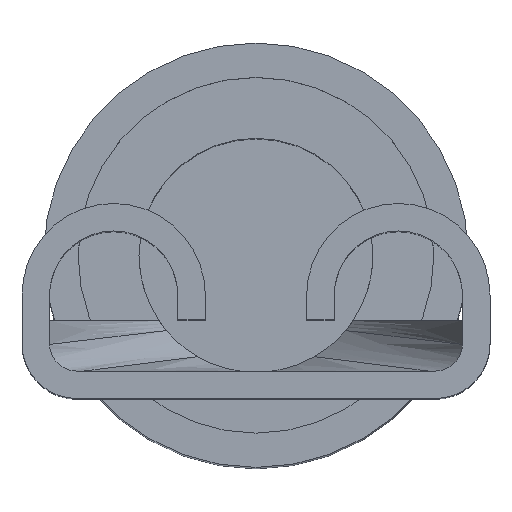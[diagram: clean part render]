
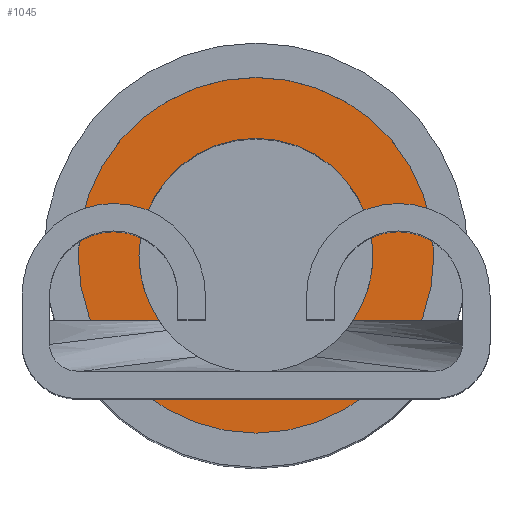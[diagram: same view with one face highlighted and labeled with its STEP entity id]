
A CAD part, top view. The second image highlights one B-rep face of the part: STEP entity #1045.
In plain terms, the highlighted planar face has unit normal (0, 0, 1).
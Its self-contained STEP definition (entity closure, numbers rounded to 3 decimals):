
#264=DIRECTION('',(1.,0.,0.));
#265=VECTOR('',#264,0.518);
#266=CARTESIAN_POINT('',(1.578,1.285,-11.811));
#267=LINE('',#266,#265);
#276=CARTESIAN_POINT('',(0.,2.352,-11.811));
#277=DIRECTION('',(0.,0.,1.));
#278=DIRECTION('',(0.,1.,0.));
#279=AXIS2_PLACEMENT_3D('',#276,#277,#278);
#281=CARTESIAN_POINT('',(0.,2.352,-11.811));
#282=DIRECTION('',(0.,0.,-1.));
#283=DIRECTION('',(0.,1.,0.));
#284=AXIS2_PLACEMENT_3D('',#281,#282,#283);
#286=CARTESIAN_POINT('',(0.,2.352,-11.811));
#287=DIRECTION('',(0.,0.,1.));
#288=DIRECTION('',(0.828,-0.56,0.));
#289=AXIS2_PLACEMENT_3D('',#286,#287,#288);
#291=CARTESIAN_POINT('',(0.,2.352,-11.811));
#292=DIRECTION('',(0.,0.,1.));
#293=DIRECTION('',(1.,0.,0.));
#294=AXIS2_PLACEMENT_3D('',#291,#292,#293);
#296=CARTESIAN_POINT('',(0.,2.352,-11.811));
#297=DIRECTION('',(0.,0.,1.));
#298=DIRECTION('',(-1.,0.,0.));
#299=AXIS2_PLACEMENT_3D('',#296,#297,#298);
#375=DIRECTION('',(-1.,0.,0.));
#376=VECTOR('',#375,0.518);
#377=CARTESIAN_POINT('',(-1.578,1.285,-11.811));
#378=LINE('',#377,#376);
#548=CARTESIAN_POINT('',(-1.802,0.84,-11.811));
#549=CARTESIAN_POINT('',(-1.848,0.895,-11.811));
#550=CARTESIAN_POINT('',(-1.957,1.037,-11.811));
#551=CARTESIAN_POINT('',(-2.056,1.206,-11.811));
#552=CARTESIAN_POINT('',(-2.096,1.285,-11.811));
#562=CARTESIAN_POINT('',(-1.176,0.315,-11.811));
#563=CARTESIAN_POINT('',(-1.203,0.331,-11.811));
#564=CARTESIAN_POINT('',(-1.256,0.363,-11.811));
#565=CARTESIAN_POINT('',(-1.359,0.431,-11.811));
#566=CARTESIAN_POINT('',(-1.486,0.525,-11.811));
#567=CARTESIAN_POINT('',(-1.615,0.64,-11.811));
#568=CARTESIAN_POINT('',(-1.721,0.747,-11.811));
#569=CARTESIAN_POINT('',(-1.775,0.808,-11.811));
#570=CARTESIAN_POINT('',(-1.802,0.84,-11.811));
#581=CARTESIAN_POINT('',(1.176,0.315,-11.811));
#582=CARTESIAN_POINT('',(1.08,0.259,-11.811));
#583=CARTESIAN_POINT('',(0.887,0.166,-11.811));
#584=CARTESIAN_POINT('',(0.593,0.069,-11.811));
#585=CARTESIAN_POINT('',(0.297,0.012,-11.811));
#586=CARTESIAN_POINT('',(0.,-0.006,-11.811));
#587=CARTESIAN_POINT('',(-0.297,0.012,-11.811));
#588=CARTESIAN_POINT('',(-0.593,0.069,-11.811));
#589=CARTESIAN_POINT('',(-0.887,0.166,-11.811));
#590=CARTESIAN_POINT('',(-1.08,0.259,-11.811));
#591=CARTESIAN_POINT('',(-1.176,0.315,-11.811));
#601=CARTESIAN_POINT('',(1.802,0.84,-11.811));
#602=CARTESIAN_POINT('',(1.775,0.808,-11.811));
#603=CARTESIAN_POINT('',(1.721,0.747,-11.811));
#604=CARTESIAN_POINT('',(1.615,0.64,-11.811));
#605=CARTESIAN_POINT('',(1.486,0.525,-11.811));
#606=CARTESIAN_POINT('',(1.359,0.431,-11.811));
#607=CARTESIAN_POINT('',(1.256,0.363,-11.811));
#608=CARTESIAN_POINT('',(1.203,0.331,-11.811));
#609=CARTESIAN_POINT('',(1.176,0.315,-11.811));
#620=CARTESIAN_POINT('',(2.096,1.285,-11.811));
#621=CARTESIAN_POINT('',(2.056,1.206,-11.811));
#622=CARTESIAN_POINT('',(1.957,1.037,-11.811));
#623=CARTESIAN_POINT('',(1.848,0.895,-11.811));
#624=CARTESIAN_POINT('',(1.802,0.84,-11.811));
#731=CARTESIAN_POINT('',(0.,5.248,-11.811));
#733=VERTEX_POINT('',#731);
#739=CARTESIAN_POINT('',(0.,-0.544,-11.811));
#741=VERTEX_POINT('',#739);
#754=CARTESIAN_POINT('',(1.905,2.352,-11.811));
#755=CARTESIAN_POINT('',(-1.905,2.352,-11.811));
#756=VERTEX_POINT('',#754);
#757=VERTEX_POINT('',#755);
#758=CARTESIAN_POINT('',(1.578,1.285,-11.811));
#760=VERTEX_POINT('',#758);
#770=CARTESIAN_POINT('',(-1.578,1.285,-11.811));
#771=VERTEX_POINT('',#770);
#773=VERTEX_POINT('',#620);
#774=VERTEX_POINT('',#624);
#775=VERTEX_POINT('',#609);
#776=VERTEX_POINT('',#591);
#777=VERTEX_POINT('',#570);
#778=VERTEX_POINT('',#552);
#1013=CARTESIAN_POINT('',(0.,0.,-11.811));
#1014=DIRECTION('',(0.,0.,-1.));
#1015=DIRECTION('',(-1.,0.,0.));
#1016=AXIS2_PLACEMENT_3D('',#1013,#1014,#1015);
#1017=PLANE('',#1016);
#1019=ORIENTED_EDGE('',*,*,#1018,.F.);
#1021=ORIENTED_EDGE('',*,*,#1020,.T.);
#1022=EDGE_LOOP('',(#1019,#1021));
#1023=FACE_OUTER_BOUND('',#1022,.F.);
#1025=ORIENTED_EDGE('',*,*,#1024,.T.);
#1027=ORIENTED_EDGE('',*,*,#1026,.F.);
#1029=ORIENTED_EDGE('',*,*,#1028,.F.);
#1031=ORIENTED_EDGE('',*,*,#1030,.F.);
#1033=ORIENTED_EDGE('',*,*,#1032,.F.);
#1035=ORIENTED_EDGE('',*,*,#1034,.F.);
#1036=ORIENTED_EDGE('',*,*,#1000,.F.);
#1038=ORIENTED_EDGE('',*,*,#1037,.T.);
#1040=ORIENTED_EDGE('',*,*,#1039,.T.);
#1042=ORIENTED_EDGE('',*,*,#1041,.T.);
#1043=EDGE_LOOP('',(#1025,#1027,#1029,#1031,#1033,#1035,#1036,#1038,#1040,
#1042));
#1044=FACE_BOUND('',#1043,.F.);
#1045=ADVANCED_FACE('',(#1023,#1044),#1017,.F.);
#280=CIRCLE('',#279,2.896);
#285=CIRCLE('',#284,2.896);
#290=CIRCLE('',#289,1.905);
#295=CIRCLE('',#294,1.905);
#300=CIRCLE('',#299,1.905);
#553=B_SPLINE_CURVE_WITH_KNOTS('',3,(#548,#549,#550,#551,#552),.UNSPECIFIED.,
.F.,.F.,(4,1,4),(0.,0.5,1.),.UNSPECIFIED.);
#571=B_SPLINE_CURVE_WITH_KNOTS('',3,(#562,#563,#564,#565,#566,#567,#568,#569,
#570),.UNSPECIFIED.,.F.,.F.,(4,1,1,1,1,1,4),(0.,0.125,0.25,0.5,0.75,
0.875,1.),.UNSPECIFIED.);
#592=B_SPLINE_CURVE_WITH_KNOTS('',3,(#581,#582,#583,#584,#585,#586,#587,#588,
#589,#590,#591),.UNSPECIFIED.,.F.,.F.,(4,1,1,1,1,1,1,1,4),(0.,0.125,0.25,
0.375,0.5,0.625,0.75,0.875,1.),.UNSPECIFIED.);
#610=B_SPLINE_CURVE_WITH_KNOTS('',3,(#601,#602,#603,#604,#605,#606,#607,#608,
#609),.UNSPECIFIED.,.F.,.F.,(4,1,1,1,1,1,4),(0.,0.125,0.25,0.5,0.75,
0.875,1.),.UNSPECIFIED.);
#625=B_SPLINE_CURVE_WITH_KNOTS('',3,(#620,#621,#622,#623,#624),.UNSPECIFIED.,
.F.,.F.,(4,1,4),(0.,0.5,1.),.UNSPECIFIED.);
#1000=EDGE_CURVE('',#760,#773,#267,.T.);
#1018=EDGE_CURVE('',#733,#741,#280,.T.);
#1020=EDGE_CURVE('',#733,#741,#285,.T.);
#1024=EDGE_CURVE('',#771,#778,#378,.T.);
#1026=EDGE_CURVE('',#777,#778,#553,.T.);
#1028=EDGE_CURVE('',#776,#777,#571,.T.);
#1030=EDGE_CURVE('',#775,#776,#592,.T.);
#1032=EDGE_CURVE('',#774,#775,#610,.T.);
#1034=EDGE_CURVE('',#773,#774,#625,.T.);
#1037=EDGE_CURVE('',#760,#756,#290,.T.);
#1039=EDGE_CURVE('',#756,#757,#295,.T.);
#1041=EDGE_CURVE('',#757,#771,#300,.T.);
